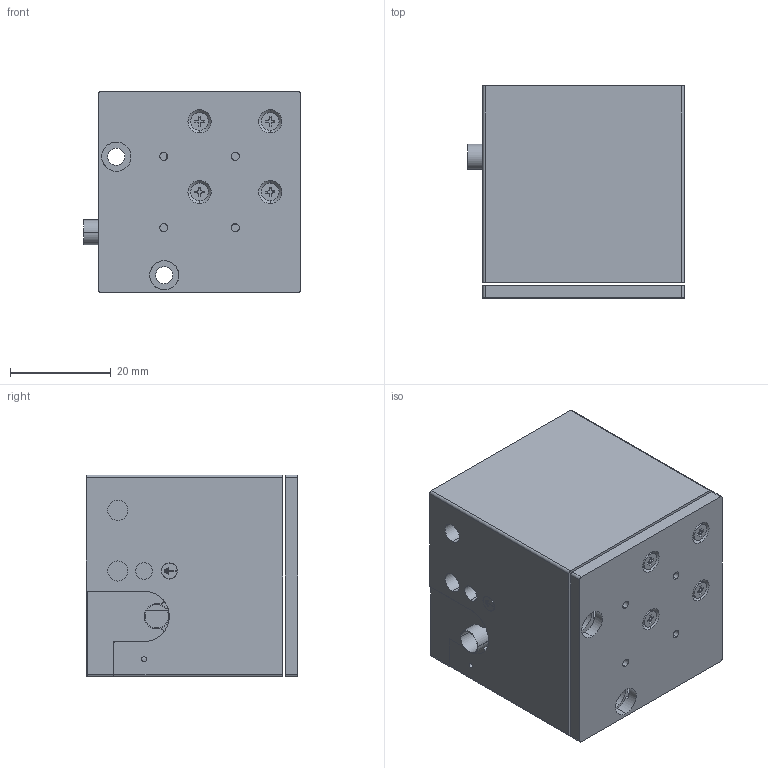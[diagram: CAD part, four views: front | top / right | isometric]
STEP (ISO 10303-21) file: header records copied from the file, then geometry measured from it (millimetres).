
FILE_DESCRIPTION (( 'STEP AP214' ), '1' );
FILE_NAME ('NP-ST-XYZ-100三维纳米定位扫描平台V7.3.STEP', '2025-05-14T05:32:37', ( '' ), ( '' ), 'SwSTEP 2.0', 'SolidWorks 2023', '' );
FILE_SCHEMA (( 'AUTOMOTIVE_DESIGN' ));
Length unit declared in the file: millimetre
Products named in the file (1): NP-ST-XYZ-100三维纳米定位扫描平台V7.3
Bounding box: 43 x 42 x 40 mm (x, y, z)
Surface area: 15888.4 mm2 (no closed solid volume)
Topology: 0 solids, 17 shells, 267 faces, 1011 edges, 745 vertices
Faces by surface type: plane 136, cylinder 107, cone 16, torus 8
Entity records: 10785 total; most frequent: CARTESIAN_POINT 2057, DIRECTION 1920, ORIENTED_EDGE 1575, EDGE_CURVE 1003, VERTEX_POINT 745, AXIS2_PLACEMENT_3D 652, VECTOR 616, LINE 616
